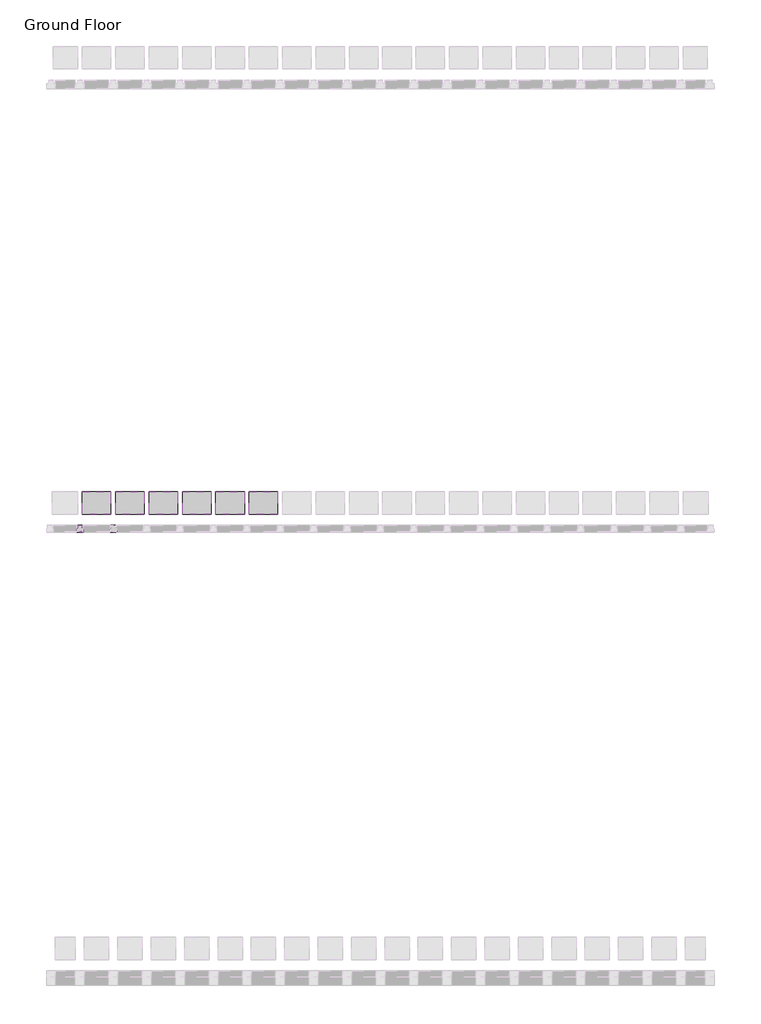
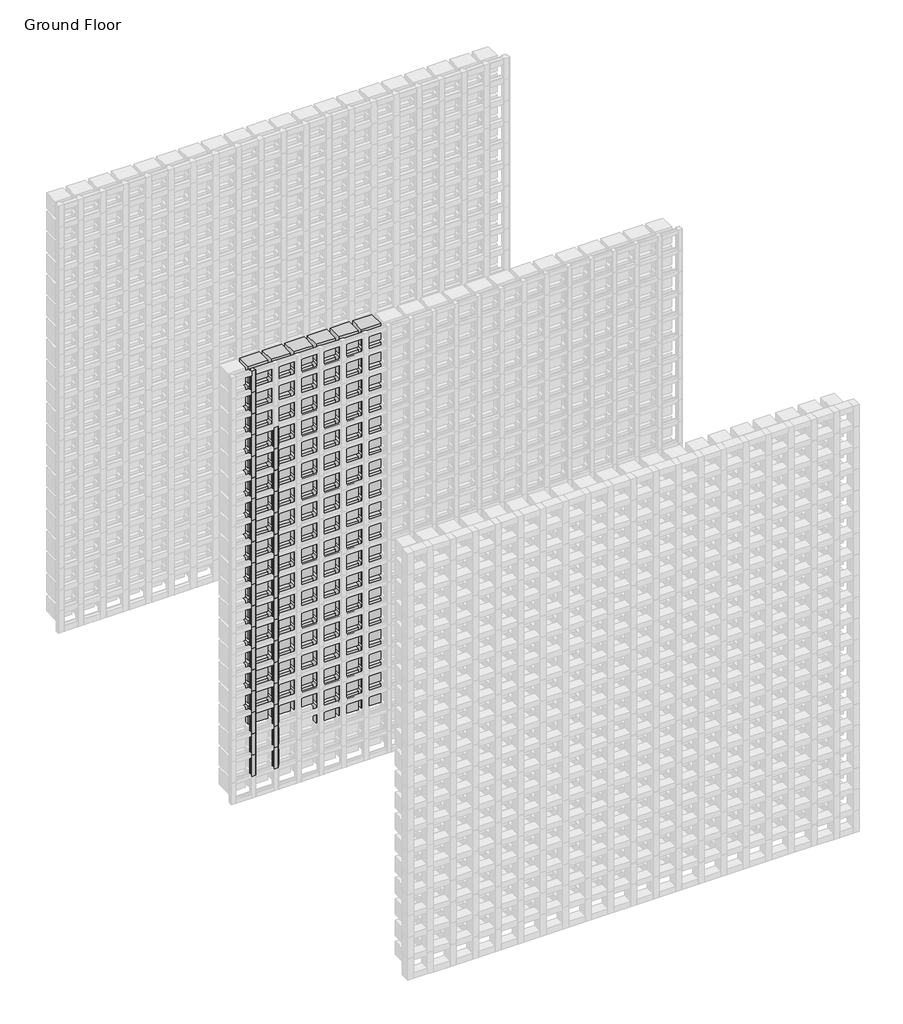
# One storey, part 86 of 350: 105 plates, 35 members.
"""IFC4 building model written with IfcOpenShell, lengths in millimetres."""

from ifc_helpers import new_model, si_unit, origin, place, context, project, spatial, transform, mapped, element, save
from components import rectangular_mullion_f1976eb1, empty_system_panel_empty_5a3607ba, empty_system_panel_empty_babc703c

model = new_model("IFC4")

# Units and contexts
model_context = context("Model", 3, world=origin())
ifc_project = project(units=[si_unit("LENGTHUNIT", "METRE", prefix="MILLI")], contexts=[model_context])

# Site, building, storey
site = spatial("IfcSite", under=ifc_project)
building = spatial("IfcBuilding", under=site)
storey = spatial("IfcBuildingStorey", under=building, Name="Ground Floor", Elevation=0.0)

# Members
placement = place(None, origin())
rectangular_mullion_shape = rectangular_mullion_f1976eb1(model_context)
element("IfcMember", 1, ObjectType="Rectangular Mullion : Batten_Timber_Modinex_Austratus_Grid_Fin_30x30_AlaskanYellowCedar", at=placement, inside=storey, context=model_context, shape_type="MappedRepresentation", body=[
    mapped(rectangular_mullion_shape, transform((2066.4361642, 42968.2978302, 150.0), x_axis=(1.0, 0.0, 0.0), y_axis=(0.0, -1.0, 0.0), z_axis=(0.0, 0.0, -1.0))),
])
element("IfcMember", 2, ObjectType="Rectangular Mullion : Batten_Timber_Modinex_Austratus_Grid_Fin_30x30_AlaskanYellowCedar", at=placement, inside=storey, context=model_context, shape_type="MappedRepresentation", body=[
    mapped(rectangular_mullion_shape, transform((2066.4361642, 42968.2978302, 300.0), x_axis=(1.0, 0.0, 0.0), y_axis=(0.0, -1.0, 0.0), z_axis=(0.0, 0.0, -1.0))),
])
element("IfcMember", 3, ObjectType="Rectangular Mullion : Batten_Timber_Modinex_Austratus_Grid_Fin_30x30_AlaskanYellowCedar", at=placement, inside=storey, context=model_context, shape_type="MappedRepresentation", body=[
    mapped(rectangular_mullion_shape, transform((2066.4361642, 42968.2978302, 450.0), x_axis=(1.0, 0.0, 0.0), y_axis=(0.0, -1.0, 0.0), z_axis=(0.0, 0.0, -1.0))),
])
element("IfcMember", 4, ObjectType="Rectangular Mullion : Batten_Timber_Modinex_Austratus_Grid_Fin_30x30_AlaskanYellowCedar", at=placement, inside=storey, context=model_context, shape_type="MappedRepresentation", body=[
    mapped(rectangular_mullion_shape, transform((2066.4361642, 42968.2978302, 600.0), x_axis=(1.0, 0.0, 0.0), y_axis=(0.0, -1.0, 0.0), z_axis=(0.0, 0.0, -1.0))),
])
element("IfcMember", 5, ObjectType="Rectangular Mullion : Batten_Timber_Modinex_Austratus_Grid_Fin_30x30_AlaskanYellowCedar", at=placement, inside=storey, context=model_context, shape_type="MappedRepresentation", body=[
    mapped(rectangular_mullion_shape, transform((2066.4361642, 42968.2978302, 750.0), x_axis=(1.0, 0.0, 0.0), y_axis=(0.0, -1.0, 0.0), z_axis=(0.0, 0.0, -1.0))),
])
element("IfcMember", 6, ObjectType="Rectangular Mullion : Batten_Timber_Modinex_Austratus_Grid_Fin_30x30_AlaskanYellowCedar", at=placement, inside=storey, context=model_context, shape_type="MappedRepresentation", body=[
    mapped(rectangular_mullion_shape, transform((2066.4361642, 42968.2978302, 900.0), x_axis=(1.0, 0.0, 0.0), y_axis=(0.0, -1.0, 0.0), z_axis=(0.0, 0.0, -1.0))),
])
element("IfcMember", 7, ObjectType="Rectangular Mullion : Batten_Timber_Modinex_Austratus_Grid_Fin_30x30_AlaskanYellowCedar", at=placement, inside=storey, context=model_context, shape_type="MappedRepresentation", body=[
    mapped(rectangular_mullion_shape, transform((2066.4361642, 42968.2978302, 1050.0), x_axis=(1.0, 0.0, 0.0), y_axis=(0.0, -1.0, 0.0), z_axis=(0.0, 0.0, -1.0))),
])
element("IfcMember", 8, ObjectType="Rectangular Mullion : Batten_Timber_Modinex_Austratus_Grid_Fin_30x30_AlaskanYellowCedar", at=placement, inside=storey, context=model_context, shape_type="MappedRepresentation", body=[
    mapped(rectangular_mullion_shape, transform((2066.4361642, 42968.2978302, 1200.0), x_axis=(1.0, 0.0, 0.0), y_axis=(0.0, -1.0, 0.0), z_axis=(0.0, 0.0, -1.0))),
])
element("IfcMember", 9, ObjectType="Rectangular Mullion : Batten_Timber_Modinex_Austratus_Grid_Fin_30x30_AlaskanYellowCedar", at=placement, inside=storey, context=model_context, shape_type="MappedRepresentation", body=[
    mapped(rectangular_mullion_shape, transform((2066.4361642, 42968.2978302, 1350.0), x_axis=(1.0, 0.0, 0.0), y_axis=(0.0, -1.0, 0.0), z_axis=(0.0, 0.0, -1.0))),
])
element("IfcMember", 10, ObjectType="Rectangular Mullion : Batten_Timber_Modinex_Austratus_Grid_Fin_30x30_AlaskanYellowCedar", at=placement, inside=storey, context=model_context, shape_type="MappedRepresentation", body=[
    mapped(rectangular_mullion_shape, transform((2066.4361642, 42968.2978302, 1500.0), x_axis=(1.0, 0.0, 0.0), y_axis=(0.0, -1.0, 0.0), z_axis=(0.0, 0.0, -1.0))),
])
element("IfcMember", 11, ObjectType="Rectangular Mullion : Batten_Timber_Modinex_Austratus_Grid_Fin_30x30_AlaskanYellowCedar", at=placement, inside=storey, context=model_context, shape_type="MappedRepresentation", body=[
    mapped(rectangular_mullion_shape, transform((2066.4361642, 42968.2978302, 1650.0), x_axis=(1.0, 0.0, 0.0), y_axis=(0.0, -1.0, 0.0), z_axis=(0.0, 0.0, -1.0))),
])
element("IfcMember", 12, ObjectType="Rectangular Mullion : Batten_Timber_Modinex_Austratus_Grid_Fin_30x30_AlaskanYellowCedar", at=placement, inside=storey, context=model_context, shape_type="MappedRepresentation", body=[
    mapped(rectangular_mullion_shape, transform((2066.4361642, 42968.2978302, 1800.0), x_axis=(1.0, 0.0, 0.0), y_axis=(0.0, -1.0, 0.0), z_axis=(0.0, 0.0, -1.0))),
])
element("IfcMember", 13, ObjectType="Rectangular Mullion : Batten_Timber_Modinex_Austratus_Grid_Fin_30x30_AlaskanYellowCedar", at=placement, inside=storey, context=model_context, shape_type="MappedRepresentation", body=[
    mapped(rectangular_mullion_shape, transform((2066.4361642, 42968.2978302, 1950.0), x_axis=(1.0, 0.0, 0.0), y_axis=(0.0, -1.0, 0.0), z_axis=(0.0, 0.0, -1.0))),
])
element("IfcMember", 14, ObjectType="Rectangular Mullion : Batten_Timber_Modinex_Austratus_Grid_Fin_30x30_AlaskanYellowCedar", at=placement, inside=storey, context=model_context, shape_type="MappedRepresentation", body=[
    mapped(rectangular_mullion_shape, transform((2066.4361642, 42968.2978302, 2100.0), x_axis=(1.0, 0.0, 0.0), y_axis=(0.0, -1.0, 0.0), z_axis=(0.0, 0.0, -1.0))),
])
element("IfcMember", 15, ObjectType="Rectangular Mullion : Batten_Timber_Modinex_Austratus_Grid_Fin_30x30_AlaskanYellowCedar", at=placement, inside=storey, context=model_context, shape_type="MappedRepresentation", body=[
    mapped(rectangular_mullion_shape, transform((2066.4361642, 42968.2978302, 2250.0), x_axis=(1.0, 0.0, 0.0), y_axis=(0.0, -1.0, 0.0), z_axis=(0.0, 0.0, -1.0))),
])
element("IfcMember", 16, ObjectType="Rectangular Mullion : Batten_Timber_Modinex_Austratus_Grid_Fin_30x30_AlaskanYellowCedar", at=placement, inside=storey, context=model_context, shape_type="MappedRepresentation", body=[
    mapped(rectangular_mullion_shape, transform((2066.4361642, 42968.2978302, 2400.0), x_axis=(1.0, 0.0, 0.0), y_axis=(0.0, -1.0, 0.0), z_axis=(0.0, 0.0, -1.0))),
])
element("IfcMember", 17, ObjectType="Rectangular Mullion : Batten_Timber_Modinex_Austratus_Grid_Fin_30x30_AlaskanYellowCedar", at=placement, inside=storey, context=model_context, shape_type="MappedRepresentation", body=[
    mapped(rectangular_mullion_shape, transform((2066.4361642, 42968.2978302, 2550.0), x_axis=(1.0, 0.0, 0.0), y_axis=(0.0, -1.0, 0.0), z_axis=(0.0, 0.0, -1.0))),
])
element("IfcMember", 18, ObjectType="Rectangular Mullion : Batten_Timber_Modinex_Austratus_Grid_Fin_30x30_AlaskanYellowCedar", at=placement, inside=storey, context=model_context, shape_type="MappedRepresentation", body=[
    mapped(rectangular_mullion_shape, transform((2066.4361642, 42968.2978302, 2700.0), x_axis=(1.0, 0.0, 0.0), y_axis=(0.0, -1.0, 0.0), z_axis=(0.0, 0.0, -1.0))),
])
element("IfcMember", 19, ObjectType="Rectangular Mullion : Batten_Timber_Modinex_Austratus_Grid_Fin_30x30_AlaskanYellowCedar", at=placement, inside=storey, context=model_context, shape_type="MappedRepresentation", body=[
    mapped(rectangular_mullion_shape, transform((2216.4361642, 42968.2978302, 150.0), x_axis=(1.0, 0.0, 0.0), y_axis=(0.0, -1.0, 0.0), z_axis=(0.0, 0.0, -1.0))),
])
element("IfcMember", 20, ObjectType="Rectangular Mullion : Batten_Timber_Modinex_Austratus_Grid_Fin_30x30_AlaskanYellowCedar", at=placement, inside=storey, context=model_context, shape_type="MappedRepresentation", body=[
    mapped(rectangular_mullion_shape, transform((2216.4361642, 42968.2978302, 300.0), x_axis=(1.0, 0.0, 0.0), y_axis=(0.0, -1.0, 0.0), z_axis=(0.0, 0.0, -1.0))),
])
element("IfcMember", 21, ObjectType="Rectangular Mullion : Batten_Timber_Modinex_Austratus_Grid_Fin_30x30_AlaskanYellowCedar", at=placement, inside=storey, context=model_context, shape_type="MappedRepresentation", body=[
    mapped(rectangular_mullion_shape, transform((2216.4361642, 42968.2978302, 450.0), x_axis=(1.0, 0.0, 0.0), y_axis=(0.0, -1.0, 0.0), z_axis=(0.0, 0.0, -1.0))),
])
element("IfcMember", 22, ObjectType="Rectangular Mullion : Batten_Timber_Modinex_Austratus_Grid_Fin_30x30_AlaskanYellowCedar", at=placement, inside=storey, context=model_context, shape_type="MappedRepresentation", body=[
    mapped(rectangular_mullion_shape, transform((2216.4361642, 42968.2978302, 600.0), x_axis=(1.0, 0.0, 0.0), y_axis=(0.0, -1.0, 0.0), z_axis=(0.0, 0.0, -1.0))),
])
element("IfcMember", 23, ObjectType="Rectangular Mullion : Batten_Timber_Modinex_Austratus_Grid_Fin_30x30_AlaskanYellowCedar", at=placement, inside=storey, context=model_context, shape_type="MappedRepresentation", body=[
    mapped(rectangular_mullion_shape, transform((2216.4361642, 42968.2978302, 750.0), x_axis=(1.0, 0.0, 0.0), y_axis=(0.0, -1.0, 0.0), z_axis=(0.0, 0.0, -1.0))),
])
element("IfcMember", 24, ObjectType="Rectangular Mullion : Batten_Timber_Modinex_Austratus_Grid_Fin_30x30_AlaskanYellowCedar", at=placement, inside=storey, context=model_context, shape_type="MappedRepresentation", body=[
    mapped(rectangular_mullion_shape, transform((2216.4361642, 42968.2978302, 900.0), x_axis=(1.0, 0.0, 0.0), y_axis=(0.0, -1.0, 0.0), z_axis=(0.0, 0.0, -1.0))),
])
element("IfcMember", 25, ObjectType="Rectangular Mullion : Batten_Timber_Modinex_Austratus_Grid_Fin_30x30_AlaskanYellowCedar", at=placement, inside=storey, context=model_context, shape_type="MappedRepresentation", body=[
    mapped(rectangular_mullion_shape, transform((2216.4361642, 42968.2978302, 1050.0), x_axis=(1.0, 0.0, 0.0), y_axis=(0.0, -1.0, 0.0), z_axis=(0.0, 0.0, -1.0))),
])
element("IfcMember", 26, ObjectType="Rectangular Mullion : Batten_Timber_Modinex_Austratus_Grid_Fin_30x30_AlaskanYellowCedar", at=placement, inside=storey, context=model_context, shape_type="MappedRepresentation", body=[
    mapped(rectangular_mullion_shape, transform((2216.4361642, 42968.2978302, 1200.0), x_axis=(1.0, 0.0, 0.0), y_axis=(0.0, -1.0, 0.0), z_axis=(0.0, 0.0, -1.0))),
])
element("IfcMember", 27, ObjectType="Rectangular Mullion : Batten_Timber_Modinex_Austratus_Grid_Fin_30x30_AlaskanYellowCedar", at=placement, inside=storey, context=model_context, shape_type="MappedRepresentation", body=[
    mapped(rectangular_mullion_shape, transform((2216.4361642, 42968.2978302, 1350.0), x_axis=(1.0, 0.0, 0.0), y_axis=(0.0, -1.0, 0.0), z_axis=(0.0, 0.0, -1.0))),
])
element("IfcMember", 28, ObjectType="Rectangular Mullion : Batten_Timber_Modinex_Austratus_Grid_Fin_30x30_AlaskanYellowCedar", at=placement, inside=storey, context=model_context, shape_type="MappedRepresentation", body=[
    mapped(rectangular_mullion_shape, transform((2216.4361642, 42968.2978302, 1500.0), x_axis=(1.0, 0.0, 0.0), y_axis=(0.0, -1.0, 0.0), z_axis=(0.0, 0.0, -1.0))),
])
element("IfcMember", 29, ObjectType="Rectangular Mullion : Batten_Timber_Modinex_Austratus_Grid_Fin_30x30_AlaskanYellowCedar", at=placement, inside=storey, context=model_context, shape_type="MappedRepresentation", body=[
    mapped(rectangular_mullion_shape, transform((2216.4361642, 42968.2978302, 1650.0), x_axis=(1.0, 0.0, 0.0), y_axis=(0.0, -1.0, 0.0), z_axis=(0.0, 0.0, -1.0))),
])
element("IfcMember", 30, ObjectType="Rectangular Mullion : Batten_Timber_Modinex_Austratus_Grid_Fin_30x30_AlaskanYellowCedar", at=placement, inside=storey, context=model_context, shape_type="MappedRepresentation", body=[
    mapped(rectangular_mullion_shape, transform((2216.4361642, 42968.2978302, 1800.0), x_axis=(1.0, 0.0, 0.0), y_axis=(0.0, -1.0, 0.0), z_axis=(0.0, 0.0, -1.0))),
])
element("IfcMember", 31, ObjectType="Rectangular Mullion : Batten_Timber_Modinex_Austratus_Grid_Fin_30x30_AlaskanYellowCedar", at=placement, inside=storey, context=model_context, shape_type="MappedRepresentation", body=[
    mapped(rectangular_mullion_shape, transform((2216.4361642, 42968.2978302, 1950.0), x_axis=(1.0, 0.0, 0.0), y_axis=(0.0, -1.0, 0.0), z_axis=(0.0, 0.0, -1.0))),
])
element("IfcMember", 32, ObjectType="Rectangular Mullion : Batten_Timber_Modinex_Austratus_Grid_Fin_30x30_AlaskanYellowCedar", at=placement, inside=storey, context=model_context, shape_type="MappedRepresentation", body=[
    mapped(rectangular_mullion_shape, transform((2216.4361642, 42968.2978302, 2100.0), x_axis=(1.0, 0.0, 0.0), y_axis=(0.0, -1.0, 0.0), z_axis=(0.0, 0.0, -1.0))),
])
element("IfcMember", 33, ObjectType="Rectangular Mullion : Batten_Timber_Modinex_Austratus_Grid_Fin_30x30_AlaskanYellowCedar", at=placement, inside=storey, context=model_context, shape_type="MappedRepresentation", body=[
    mapped(rectangular_mullion_shape, transform((2216.4361642, 42968.2978302, 2250.0), x_axis=(1.0, 0.0, 0.0), y_axis=(0.0, -1.0, 0.0), z_axis=(0.0, 0.0, -1.0))),
])
element("IfcMember", 34, ObjectType="Rectangular Mullion : Batten_Timber_Modinex_Austratus_Grid_Fin_30x30_AlaskanYellowCedar", at=placement, inside=storey, context=model_context, shape_type="MappedRepresentation", body=[
    mapped(rectangular_mullion_shape, transform((2216.4361642, 42968.2978302, 2400.0), x_axis=(1.0, 0.0, 0.0), y_axis=(0.0, -1.0, 0.0), z_axis=(0.0, 0.0, -1.0))),
])
element("IfcMember", 35, ObjectType="Rectangular Mullion : Batten_Timber_Modinex_Austratus_Grid_Fin_30x30_AlaskanYellowCedar", at=placement, inside=storey, context=model_context, shape_type="MappedRepresentation", body=[
    mapped(rectangular_mullion_shape, transform((2066.4361642, 42968.2978302, 2850.0), x_axis=(1.0, 0.0, 0.0), y_axis=(0.0, -1.0, 0.0), z_axis=(0.0, 0.0, -1.0))),
])

# Plates
empty_system_panel_empty_shape = empty_system_panel_empty_5a3607ba(model_context)
element("IfcPlate", 36, ObjectType="Empty System Panel : Empty", at=placement, inside=storey, context=model_context, shape_type="MappedRepresentation", body=[
    mapped(empty_system_panel_empty_shape, transform((2591.4361642, 42968.2978302, 310.812195), x_axis=(1.0, 0.0, 0.0), y_axis=(0.0, 1.0, 0.0), z_axis=(0.0, 0.0, 1.0))),
])
element("IfcPlate", 37, ObjectType="Empty System Panel : Empty", at=placement, inside=storey, context=model_context, shape_type="MappedRepresentation", body=[
    mapped(empty_system_panel_empty_shape, transform((2741.4361642, 42968.2978302, 310.812195), x_axis=(1.0, 0.0, 0.0), y_axis=(0.0, 1.0, 0.0), z_axis=(0.0, 0.0, 1.0))),
])
element("IfcPlate", 38, ObjectType="Empty System Panel : Empty", at=placement, inside=storey, context=model_context, shape_type="MappedRepresentation", body=[
    mapped(empty_system_panel_empty_shape, transform((2891.4361642, 42968.2978302, 310.812195), x_axis=(1.0, 0.0, 0.0), y_axis=(0.0, 1.0, 0.0), z_axis=(0.0, 0.0, 1.0))),
])
element("IfcPlate", 39, ObjectType="Empty System Panel : Empty", at=placement, inside=storey, context=model_context, shape_type="MappedRepresentation", body=[
    mapped(empty_system_panel_empty_shape, transform((2141.4361642, 42968.2978302, 460.812195), x_axis=(1.0, 0.0, 0.0), y_axis=(0.0, 1.0, 0.0), z_axis=(0.0, 0.0, 1.0))),
])
element("IfcPlate", 40, ObjectType="Empty System Panel : Empty", at=placement, inside=storey, context=model_context, shape_type="MappedRepresentation", body=[
    mapped(empty_system_panel_empty_shape, transform((2291.4361642, 42968.2978302, 460.812195), x_axis=(1.0, 0.0, 0.0), y_axis=(0.0, 1.0, 0.0), z_axis=(0.0, 0.0, 1.0))),
])
element("IfcPlate", 41, ObjectType="Empty System Panel : Empty", at=placement, inside=storey, context=model_context, shape_type="MappedRepresentation", body=[
    mapped(empty_system_panel_empty_shape, transform((2441.4361642, 42968.2978302, 460.812195), x_axis=(1.0, 0.0, 0.0), y_axis=(0.0, 1.0, 0.0), z_axis=(0.0, 0.0, 1.0))),
])
element("IfcPlate", 42, ObjectType="Empty System Panel : Empty", at=placement, inside=storey, context=model_context, shape_type="MappedRepresentation", body=[
    mapped(empty_system_panel_empty_shape, transform((2591.4361642, 42968.2978302, 460.812195), x_axis=(1.0, 0.0, 0.0), y_axis=(0.0, 1.0, 0.0), z_axis=(0.0, 0.0, 1.0))),
])
element("IfcPlate", 43, ObjectType="Empty System Panel : Empty", at=placement, inside=storey, context=model_context, shape_type="MappedRepresentation", body=[
    mapped(empty_system_panel_empty_shape, transform((2741.4361642, 42968.2978302, 460.812195), x_axis=(1.0, 0.0, 0.0), y_axis=(0.0, 1.0, 0.0), z_axis=(0.0, 0.0, 1.0))),
])
element("IfcPlate", 44, ObjectType="Empty System Panel : Empty", at=placement, inside=storey, context=model_context, shape_type="MappedRepresentation", body=[
    mapped(empty_system_panel_empty_shape, transform((2891.4361642, 42968.2978302, 460.812195), x_axis=(1.0, 0.0, 0.0), y_axis=(0.0, 1.0, 0.0), z_axis=(0.0, 0.0, 1.0))),
])
element("IfcPlate", 45, ObjectType="Empty System Panel : Empty", at=placement, inside=storey, context=model_context, shape_type="MappedRepresentation", body=[
    mapped(empty_system_panel_empty_shape, transform((2141.4361642, 42968.2978302, 610.812195), x_axis=(1.0, 0.0, 0.0), y_axis=(0.0, 1.0, 0.0), z_axis=(0.0, 0.0, 1.0))),
])
element("IfcPlate", 46, ObjectType="Empty System Panel : Empty", at=placement, inside=storey, context=model_context, shape_type="MappedRepresentation", body=[
    mapped(empty_system_panel_empty_shape, transform((2291.4361642, 42968.2978302, 610.812195), x_axis=(1.0, 0.0, 0.0), y_axis=(0.0, 1.0, 0.0), z_axis=(0.0, 0.0, 1.0))),
])
element("IfcPlate", 47, ObjectType="Empty System Panel : Empty", at=placement, inside=storey, context=model_context, shape_type="MappedRepresentation", body=[
    mapped(empty_system_panel_empty_shape, transform((2441.4361642, 42968.2978302, 610.812195), x_axis=(1.0, 0.0, 0.0), y_axis=(0.0, 1.0, 0.0), z_axis=(0.0, 0.0, 1.0))),
])
element("IfcPlate", 48, ObjectType="Empty System Panel : Empty", at=placement, inside=storey, context=model_context, shape_type="MappedRepresentation", body=[
    mapped(empty_system_panel_empty_shape, transform((2591.4361642, 42968.2978302, 610.812195), x_axis=(1.0, 0.0, 0.0), y_axis=(0.0, 1.0, 0.0), z_axis=(0.0, 0.0, 1.0))),
])
element("IfcPlate", 49, ObjectType="Empty System Panel : Empty", at=placement, inside=storey, context=model_context, shape_type="MappedRepresentation", body=[
    mapped(empty_system_panel_empty_shape, transform((2741.4361642, 42968.2978302, 610.812195), x_axis=(1.0, 0.0, 0.0), y_axis=(0.0, 1.0, 0.0), z_axis=(0.0, 0.0, 1.0))),
])
element("IfcPlate", 50, ObjectType="Empty System Panel : Empty", at=placement, inside=storey, context=model_context, shape_type="MappedRepresentation", body=[
    mapped(empty_system_panel_empty_shape, transform((2891.4361642, 42968.2978302, 610.812195), x_axis=(1.0, 0.0, 0.0), y_axis=(0.0, 1.0, 0.0), z_axis=(0.0, 0.0, 1.0))),
])
element("IfcPlate", 51, ObjectType="Empty System Panel : Empty", at=placement, inside=storey, context=model_context, shape_type="MappedRepresentation", body=[
    mapped(empty_system_panel_empty_shape, transform((2141.4361642, 42968.2978302, 760.812195), x_axis=(1.0, 0.0, 0.0), y_axis=(0.0, 1.0, 0.0), z_axis=(0.0, 0.0, 1.0))),
])
element("IfcPlate", 52, ObjectType="Empty System Panel : Empty", at=placement, inside=storey, context=model_context, shape_type="MappedRepresentation", body=[
    mapped(empty_system_panel_empty_shape, transform((2291.4361642, 42968.2978302, 760.812195), x_axis=(1.0, 0.0, 0.0), y_axis=(0.0, 1.0, 0.0), z_axis=(0.0, 0.0, 1.0))),
])
element("IfcPlate", 53, ObjectType="Empty System Panel : Empty", at=placement, inside=storey, context=model_context, shape_type="MappedRepresentation", body=[
    mapped(empty_system_panel_empty_shape, transform((2441.4361642, 42968.2978302, 760.812195), x_axis=(1.0, 0.0, 0.0), y_axis=(0.0, 1.0, 0.0), z_axis=(0.0, 0.0, 1.0))),
])
element("IfcPlate", 54, ObjectType="Empty System Panel : Empty", at=placement, inside=storey, context=model_context, shape_type="MappedRepresentation", body=[
    mapped(empty_system_panel_empty_shape, transform((2591.4361642, 42968.2978302, 760.812195), x_axis=(1.0, 0.0, 0.0), y_axis=(0.0, 1.0, 0.0), z_axis=(0.0, 0.0, 1.0))),
])
element("IfcPlate", 55, ObjectType="Empty System Panel : Empty", at=placement, inside=storey, context=model_context, shape_type="MappedRepresentation", body=[
    mapped(empty_system_panel_empty_shape, transform((2741.4361642, 42968.2978302, 760.812195), x_axis=(1.0, 0.0, 0.0), y_axis=(0.0, 1.0, 0.0), z_axis=(0.0, 0.0, 1.0))),
])
element("IfcPlate", 56, ObjectType="Empty System Panel : Empty", at=placement, inside=storey, context=model_context, shape_type="MappedRepresentation", body=[
    mapped(empty_system_panel_empty_shape, transform((2891.4361642, 42968.2978302, 760.812195), x_axis=(1.0, 0.0, 0.0), y_axis=(0.0, 1.0, 0.0), z_axis=(0.0, 0.0, 1.0))),
])
element("IfcPlate", 57, ObjectType="Empty System Panel : Empty", at=placement, inside=storey, context=model_context, shape_type="MappedRepresentation", body=[
    mapped(empty_system_panel_empty_shape, transform((2141.4361642, 42968.2978302, 910.812195), x_axis=(1.0, 0.0, 0.0), y_axis=(0.0, 1.0, 0.0), z_axis=(0.0, 0.0, 1.0))),
])
element("IfcPlate", 58, ObjectType="Empty System Panel : Empty", at=placement, inside=storey, context=model_context, shape_type="MappedRepresentation", body=[
    mapped(empty_system_panel_empty_shape, transform((2291.4361642, 42968.2978302, 910.812195), x_axis=(1.0, 0.0, 0.0), y_axis=(0.0, 1.0, 0.0), z_axis=(0.0, 0.0, 1.0))),
])
element("IfcPlate", 59, ObjectType="Empty System Panel : Empty", at=placement, inside=storey, context=model_context, shape_type="MappedRepresentation", body=[
    mapped(empty_system_panel_empty_shape, transform((2441.4361642, 42968.2978302, 910.812195), x_axis=(1.0, 0.0, 0.0), y_axis=(0.0, 1.0, 0.0), z_axis=(0.0, 0.0, 1.0))),
])
element("IfcPlate", 60, ObjectType="Empty System Panel : Empty", at=placement, inside=storey, context=model_context, shape_type="MappedRepresentation", body=[
    mapped(empty_system_panel_empty_shape, transform((2591.4361642, 42968.2978302, 910.812195), x_axis=(1.0, 0.0, 0.0), y_axis=(0.0, 1.0, 0.0), z_axis=(0.0, 0.0, 1.0))),
])
element("IfcPlate", 61, ObjectType="Empty System Panel : Empty", at=placement, inside=storey, context=model_context, shape_type="MappedRepresentation", body=[
    mapped(empty_system_panel_empty_shape, transform((2741.4361642, 42968.2978302, 910.812195), x_axis=(1.0, 0.0, 0.0), y_axis=(0.0, 1.0, 0.0), z_axis=(0.0, 0.0, 1.0))),
])
element("IfcPlate", 62, ObjectType="Empty System Panel : Empty", at=placement, inside=storey, context=model_context, shape_type="MappedRepresentation", body=[
    mapped(empty_system_panel_empty_shape, transform((2891.4361642, 42968.2978302, 910.812195), x_axis=(1.0, 0.0, 0.0), y_axis=(0.0, 1.0, 0.0), z_axis=(0.0, 0.0, 1.0))),
])
element("IfcPlate", 63, ObjectType="Empty System Panel : Empty", at=placement, inside=storey, context=model_context, shape_type="MappedRepresentation", body=[
    mapped(empty_system_panel_empty_shape, transform((2141.4361642, 42968.2978302, 1060.812195), x_axis=(1.0, 0.0, 0.0), y_axis=(0.0, 1.0, 0.0), z_axis=(0.0, 0.0, 1.0))),
])
element("IfcPlate", 64, ObjectType="Empty System Panel : Empty", at=placement, inside=storey, context=model_context, shape_type="MappedRepresentation", body=[
    mapped(empty_system_panel_empty_shape, transform((2291.4361642, 42968.2978302, 1060.812195), x_axis=(1.0, 0.0, 0.0), y_axis=(0.0, 1.0, 0.0), z_axis=(0.0, 0.0, 1.0))),
])
element("IfcPlate", 65, ObjectType="Empty System Panel : Empty", at=placement, inside=storey, context=model_context, shape_type="MappedRepresentation", body=[
    mapped(empty_system_panel_empty_shape, transform((2441.4361642, 42968.2978302, 1060.812195), x_axis=(1.0, 0.0, 0.0), y_axis=(0.0, 1.0, 0.0), z_axis=(0.0, 0.0, 1.0))),
])
element("IfcPlate", 66, ObjectType="Empty System Panel : Empty", at=placement, inside=storey, context=model_context, shape_type="MappedRepresentation", body=[
    mapped(empty_system_panel_empty_shape, transform((2591.4361642, 42968.2978302, 1060.812195), x_axis=(1.0, 0.0, 0.0), y_axis=(0.0, 1.0, 0.0), z_axis=(0.0, 0.0, 1.0))),
])
element("IfcPlate", 67, ObjectType="Empty System Panel : Empty", at=placement, inside=storey, context=model_context, shape_type="MappedRepresentation", body=[
    mapped(empty_system_panel_empty_shape, transform((2741.4361642, 42968.2978302, 1060.812195), x_axis=(1.0, 0.0, 0.0), y_axis=(0.0, 1.0, 0.0), z_axis=(0.0, 0.0, 1.0))),
])
element("IfcPlate", 68, ObjectType="Empty System Panel : Empty", at=placement, inside=storey, context=model_context, shape_type="MappedRepresentation", body=[
    mapped(empty_system_panel_empty_shape, transform((2891.4361642, 42968.2978302, 1060.812195), x_axis=(1.0, 0.0, 0.0), y_axis=(0.0, 1.0, 0.0), z_axis=(0.0, 0.0, 1.0))),
])
element("IfcPlate", 69, ObjectType="Empty System Panel : Empty", at=placement, inside=storey, context=model_context, shape_type="MappedRepresentation", body=[
    mapped(empty_system_panel_empty_shape, transform((2141.4361642, 42968.2978302, 1210.812195), x_axis=(1.0, 0.0, 0.0), y_axis=(0.0, 1.0, 0.0), z_axis=(0.0, 0.0, 1.0))),
])
element("IfcPlate", 70, ObjectType="Empty System Panel : Empty", at=placement, inside=storey, context=model_context, shape_type="MappedRepresentation", body=[
    mapped(empty_system_panel_empty_shape, transform((2291.4361642, 42968.2978302, 1210.812195), x_axis=(1.0, 0.0, 0.0), y_axis=(0.0, 1.0, 0.0), z_axis=(0.0, 0.0, 1.0))),
])
element("IfcPlate", 71, ObjectType="Empty System Panel : Empty", at=placement, inside=storey, context=model_context, shape_type="MappedRepresentation", body=[
    mapped(empty_system_panel_empty_shape, transform((2441.4361642, 42968.2978302, 1210.812195), x_axis=(1.0, 0.0, 0.0), y_axis=(0.0, 1.0, 0.0), z_axis=(0.0, 0.0, 1.0))),
])
element("IfcPlate", 72, ObjectType="Empty System Panel : Empty", at=placement, inside=storey, context=model_context, shape_type="MappedRepresentation", body=[
    mapped(empty_system_panel_empty_shape, transform((2591.4361642, 42968.2978302, 1210.812195), x_axis=(1.0, 0.0, 0.0), y_axis=(0.0, 1.0, 0.0), z_axis=(0.0, 0.0, 1.0))),
])
element("IfcPlate", 73, ObjectType="Empty System Panel : Empty", at=placement, inside=storey, context=model_context, shape_type="MappedRepresentation", body=[
    mapped(empty_system_panel_empty_shape, transform((2741.4361642, 42968.2978302, 1210.812195), x_axis=(1.0, 0.0, 0.0), y_axis=(0.0, 1.0, 0.0), z_axis=(0.0, 0.0, 1.0))),
])
element("IfcPlate", 74, ObjectType="Empty System Panel : Empty", at=placement, inside=storey, context=model_context, shape_type="MappedRepresentation", body=[
    mapped(empty_system_panel_empty_shape, transform((2891.4361642, 42968.2978302, 1210.812195), x_axis=(1.0, 0.0, 0.0), y_axis=(0.0, 1.0, 0.0), z_axis=(0.0, 0.0, 1.0))),
])
element("IfcPlate", 75, ObjectType="Empty System Panel : Empty", at=placement, inside=storey, context=model_context, shape_type="MappedRepresentation", body=[
    mapped(empty_system_panel_empty_shape, transform((2141.4361642, 42968.2978302, 1360.812195), x_axis=(1.0, 0.0, 0.0), y_axis=(0.0, 1.0, 0.0), z_axis=(0.0, 0.0, 1.0))),
])
element("IfcPlate", 76, ObjectType="Empty System Panel : Empty", at=placement, inside=storey, context=model_context, shape_type="MappedRepresentation", body=[
    mapped(empty_system_panel_empty_shape, transform((2291.4361642, 42968.2978302, 1360.812195), x_axis=(1.0, 0.0, 0.0), y_axis=(0.0, 1.0, 0.0), z_axis=(0.0, 0.0, 1.0))),
])
element("IfcPlate", 77, ObjectType="Empty System Panel : Empty", at=placement, inside=storey, context=model_context, shape_type="MappedRepresentation", body=[
    mapped(empty_system_panel_empty_shape, transform((2441.4361642, 42968.2978302, 1360.812195), x_axis=(1.0, 0.0, 0.0), y_axis=(0.0, 1.0, 0.0), z_axis=(0.0, 0.0, 1.0))),
])
element("IfcPlate", 78, ObjectType="Empty System Panel : Empty", at=placement, inside=storey, context=model_context, shape_type="MappedRepresentation", body=[
    mapped(empty_system_panel_empty_shape, transform((2591.4361642, 42968.2978302, 1360.812195), x_axis=(1.0, 0.0, 0.0), y_axis=(0.0, 1.0, 0.0), z_axis=(0.0, 0.0, 1.0))),
])
element("IfcPlate", 79, ObjectType="Empty System Panel : Empty", at=placement, inside=storey, context=model_context, shape_type="MappedRepresentation", body=[
    mapped(empty_system_panel_empty_shape, transform((2741.4361642, 42968.2978302, 1360.812195), x_axis=(1.0, 0.0, 0.0), y_axis=(0.0, 1.0, 0.0), z_axis=(0.0, 0.0, 1.0))),
])
element("IfcPlate", 80, ObjectType="Empty System Panel : Empty", at=placement, inside=storey, context=model_context, shape_type="MappedRepresentation", body=[
    mapped(empty_system_panel_empty_shape, transform((2891.4361642, 42968.2978302, 1360.812195), x_axis=(1.0, 0.0, 0.0), y_axis=(0.0, 1.0, 0.0), z_axis=(0.0, 0.0, 1.0))),
])
element("IfcPlate", 81, ObjectType="Empty System Panel : Empty", at=placement, inside=storey, context=model_context, shape_type="MappedRepresentation", body=[
    mapped(empty_system_panel_empty_shape, transform((2141.4361642, 42968.2978302, 1510.812195), x_axis=(1.0, 0.0, 0.0), y_axis=(0.0, 1.0, 0.0), z_axis=(0.0, 0.0, 1.0))),
])
element("IfcPlate", 82, ObjectType="Empty System Panel : Empty", at=placement, inside=storey, context=model_context, shape_type="MappedRepresentation", body=[
    mapped(empty_system_panel_empty_shape, transform((2291.4361642, 42968.2978302, 1510.812195), x_axis=(1.0, 0.0, 0.0), y_axis=(0.0, 1.0, 0.0), z_axis=(0.0, 0.0, 1.0))),
])
element("IfcPlate", 83, ObjectType="Empty System Panel : Empty", at=placement, inside=storey, context=model_context, shape_type="MappedRepresentation", body=[
    mapped(empty_system_panel_empty_shape, transform((2441.4361642, 42968.2978302, 1510.812195), x_axis=(1.0, 0.0, 0.0), y_axis=(0.0, 1.0, 0.0), z_axis=(0.0, 0.0, 1.0))),
])
element("IfcPlate", 84, ObjectType="Empty System Panel : Empty", at=placement, inside=storey, context=model_context, shape_type="MappedRepresentation", body=[
    mapped(empty_system_panel_empty_shape, transform((2591.4361642, 42968.2978302, 1510.812195), x_axis=(1.0, 0.0, 0.0), y_axis=(0.0, 1.0, 0.0), z_axis=(0.0, 0.0, 1.0))),
])
element("IfcPlate", 85, ObjectType="Empty System Panel : Empty", at=placement, inside=storey, context=model_context, shape_type="MappedRepresentation", body=[
    mapped(empty_system_panel_empty_shape, transform((2741.4361642, 42968.2978302, 1510.812195), x_axis=(1.0, 0.0, 0.0), y_axis=(0.0, 1.0, 0.0), z_axis=(0.0, 0.0, 1.0))),
])
element("IfcPlate", 86, ObjectType="Empty System Panel : Empty", at=placement, inside=storey, context=model_context, shape_type="MappedRepresentation", body=[
    mapped(empty_system_panel_empty_shape, transform((2891.4361642, 42968.2978302, 1510.812195), x_axis=(1.0, 0.0, 0.0), y_axis=(0.0, 1.0, 0.0), z_axis=(0.0, 0.0, 1.0))),
])
element("IfcPlate", 87, ObjectType="Empty System Panel : Empty", at=placement, inside=storey, context=model_context, shape_type="MappedRepresentation", body=[
    mapped(empty_system_panel_empty_shape, transform((2141.4361642, 42968.2978302, 1660.812195), x_axis=(1.0, 0.0, 0.0), y_axis=(0.0, 1.0, 0.0), z_axis=(0.0, 0.0, 1.0))),
])
element("IfcPlate", 88, ObjectType="Empty System Panel : Empty", at=placement, inside=storey, context=model_context, shape_type="MappedRepresentation", body=[
    mapped(empty_system_panel_empty_shape, transform((2291.4361642, 42968.2978302, 1660.812195), x_axis=(1.0, 0.0, 0.0), y_axis=(0.0, 1.0, 0.0), z_axis=(0.0, 0.0, 1.0))),
])
element("IfcPlate", 89, ObjectType="Empty System Panel : Empty", at=placement, inside=storey, context=model_context, shape_type="MappedRepresentation", body=[
    mapped(empty_system_panel_empty_shape, transform((2441.4361642, 42968.2978302, 1660.812195), x_axis=(1.0, 0.0, 0.0), y_axis=(0.0, 1.0, 0.0), z_axis=(0.0, 0.0, 1.0))),
])
element("IfcPlate", 90, ObjectType="Empty System Panel : Empty", at=placement, inside=storey, context=model_context, shape_type="MappedRepresentation", body=[
    mapped(empty_system_panel_empty_shape, transform((2591.4361642, 42968.2978302, 1660.812195), x_axis=(1.0, 0.0, 0.0), y_axis=(0.0, 1.0, 0.0), z_axis=(0.0, 0.0, 1.0))),
])
element("IfcPlate", 91, ObjectType="Empty System Panel : Empty", at=placement, inside=storey, context=model_context, shape_type="MappedRepresentation", body=[
    mapped(empty_system_panel_empty_shape, transform((2741.4361642, 42968.2978302, 1660.812195), x_axis=(1.0, 0.0, 0.0), y_axis=(0.0, 1.0, 0.0), z_axis=(0.0, 0.0, 1.0))),
])
element("IfcPlate", 92, ObjectType="Empty System Panel : Empty", at=placement, inside=storey, context=model_context, shape_type="MappedRepresentation", body=[
    mapped(empty_system_panel_empty_shape, transform((2891.4361642, 42968.2978302, 1660.812195), x_axis=(1.0, 0.0, 0.0), y_axis=(0.0, 1.0, 0.0), z_axis=(0.0, 0.0, 1.0))),
])
element("IfcPlate", 93, ObjectType="Empty System Panel : Empty", at=placement, inside=storey, context=model_context, shape_type="MappedRepresentation", body=[
    mapped(empty_system_panel_empty_shape, transform((2141.4361642, 42968.2978302, 1810.812195), x_axis=(1.0, 0.0, 0.0), y_axis=(0.0, 1.0, 0.0), z_axis=(0.0, 0.0, 1.0))),
])
element("IfcPlate", 94, ObjectType="Empty System Panel : Empty", at=placement, inside=storey, context=model_context, shape_type="MappedRepresentation", body=[
    mapped(empty_system_panel_empty_shape, transform((2291.4361642, 42968.2978302, 1810.812195), x_axis=(1.0, 0.0, 0.0), y_axis=(0.0, 1.0, 0.0), z_axis=(0.0, 0.0, 1.0))),
])
element("IfcPlate", 95, ObjectType="Empty System Panel : Empty", at=placement, inside=storey, context=model_context, shape_type="MappedRepresentation", body=[
    mapped(empty_system_panel_empty_shape, transform((2441.4361642, 42968.2978302, 1810.812195), x_axis=(1.0, 0.0, 0.0), y_axis=(0.0, 1.0, 0.0), z_axis=(0.0, 0.0, 1.0))),
])
element("IfcPlate", 96, ObjectType="Empty System Panel : Empty", at=placement, inside=storey, context=model_context, shape_type="MappedRepresentation", body=[
    mapped(empty_system_panel_empty_shape, transform((2591.4361642, 42968.2978302, 1810.812195), x_axis=(1.0, 0.0, 0.0), y_axis=(0.0, 1.0, 0.0), z_axis=(0.0, 0.0, 1.0))),
])
element("IfcPlate", 97, ObjectType="Empty System Panel : Empty", at=placement, inside=storey, context=model_context, shape_type="MappedRepresentation", body=[
    mapped(empty_system_panel_empty_shape, transform((2741.4361642, 42968.2978302, 1810.812195), x_axis=(1.0, 0.0, 0.0), y_axis=(0.0, 1.0, 0.0), z_axis=(0.0, 0.0, 1.0))),
])
element("IfcPlate", 98, ObjectType="Empty System Panel : Empty", at=placement, inside=storey, context=model_context, shape_type="MappedRepresentation", body=[
    mapped(empty_system_panel_empty_shape, transform((2891.4361642, 42968.2978302, 1810.812195), x_axis=(1.0, 0.0, 0.0), y_axis=(0.0, 1.0, 0.0), z_axis=(0.0, 0.0, 1.0))),
])
element("IfcPlate", 99, ObjectType="Empty System Panel : Empty", at=placement, inside=storey, context=model_context, shape_type="MappedRepresentation", body=[
    mapped(empty_system_panel_empty_shape, transform((2141.4361642, 42968.2978302, 1960.812195), x_axis=(1.0, 0.0, 0.0), y_axis=(0.0, 1.0, 0.0), z_axis=(0.0, 0.0, 1.0))),
])
element("IfcPlate", 100, ObjectType="Empty System Panel : Empty", at=placement, inside=storey, context=model_context, shape_type="MappedRepresentation", body=[
    mapped(empty_system_panel_empty_shape, transform((2291.4361642, 42968.2978302, 1960.812195), x_axis=(1.0, 0.0, 0.0), y_axis=(0.0, 1.0, 0.0), z_axis=(0.0, 0.0, 1.0))),
])
element("IfcPlate", 101, ObjectType="Empty System Panel : Empty", at=placement, inside=storey, context=model_context, shape_type="MappedRepresentation", body=[
    mapped(empty_system_panel_empty_shape, transform((2441.4361642, 42968.2978302, 1960.812195), x_axis=(1.0, 0.0, 0.0), y_axis=(0.0, 1.0, 0.0), z_axis=(0.0, 0.0, 1.0))),
])
element("IfcPlate", 102, ObjectType="Empty System Panel : Empty", at=placement, inside=storey, context=model_context, shape_type="MappedRepresentation", body=[
    mapped(empty_system_panel_empty_shape, transform((2591.4361642, 42968.2978302, 1960.812195), x_axis=(1.0, 0.0, 0.0), y_axis=(0.0, 1.0, 0.0), z_axis=(0.0, 0.0, 1.0))),
])
element("IfcPlate", 103, ObjectType="Empty System Panel : Empty", at=placement, inside=storey, context=model_context, shape_type="MappedRepresentation", body=[
    mapped(empty_system_panel_empty_shape, transform((2741.4361642, 42968.2978302, 1960.812195), x_axis=(1.0, 0.0, 0.0), y_axis=(0.0, 1.0, 0.0), z_axis=(0.0, 0.0, 1.0))),
])
element("IfcPlate", 104, ObjectType="Empty System Panel : Empty", at=placement, inside=storey, context=model_context, shape_type="MappedRepresentation", body=[
    mapped(empty_system_panel_empty_shape, transform((2891.4361642, 42968.2978302, 1960.812195), x_axis=(1.0, 0.0, 0.0), y_axis=(0.0, 1.0, 0.0), z_axis=(0.0, 0.0, 1.0))),
])
element("IfcPlate", 105, ObjectType="Empty System Panel : Empty", at=placement, inside=storey, context=model_context, shape_type="MappedRepresentation", body=[
    mapped(empty_system_panel_empty_shape, transform((2141.4361642, 42968.2978302, 2110.812195), x_axis=(1.0, 0.0, 0.0), y_axis=(0.0, 1.0, 0.0), z_axis=(0.0, 0.0, 1.0))),
])
element("IfcPlate", 106, ObjectType="Empty System Panel : Empty", at=placement, inside=storey, context=model_context, shape_type="MappedRepresentation", body=[
    mapped(empty_system_panel_empty_shape, transform((2291.4361642, 42968.2978302, 2110.812195), x_axis=(1.0, 0.0, 0.0), y_axis=(0.0, 1.0, 0.0), z_axis=(0.0, 0.0, 1.0))),
])
element("IfcPlate", 107, ObjectType="Empty System Panel : Empty", at=placement, inside=storey, context=model_context, shape_type="MappedRepresentation", body=[
    mapped(empty_system_panel_empty_shape, transform((2441.4361642, 42968.2978302, 2110.812195), x_axis=(1.0, 0.0, 0.0), y_axis=(0.0, 1.0, 0.0), z_axis=(0.0, 0.0, 1.0))),
])
element("IfcPlate", 108, ObjectType="Empty System Panel : Empty", at=placement, inside=storey, context=model_context, shape_type="MappedRepresentation", body=[
    mapped(empty_system_panel_empty_shape, transform((2591.4361642, 42968.2978302, 2110.812195), x_axis=(1.0, 0.0, 0.0), y_axis=(0.0, 1.0, 0.0), z_axis=(0.0, 0.0, 1.0))),
])
element("IfcPlate", 109, ObjectType="Empty System Panel : Empty", at=placement, inside=storey, context=model_context, shape_type="MappedRepresentation", body=[
    mapped(empty_system_panel_empty_shape, transform((2741.4361642, 42968.2978302, 2110.812195), x_axis=(1.0, 0.0, 0.0), y_axis=(0.0, 1.0, 0.0), z_axis=(0.0, 0.0, 1.0))),
])
element("IfcPlate", 110, ObjectType="Empty System Panel : Empty", at=placement, inside=storey, context=model_context, shape_type="MappedRepresentation", body=[
    mapped(empty_system_panel_empty_shape, transform((2891.4361642, 42968.2978302, 2110.812195), x_axis=(1.0, 0.0, 0.0), y_axis=(0.0, 1.0, 0.0), z_axis=(0.0, 0.0, 1.0))),
])
element("IfcPlate", 111, ObjectType="Empty System Panel : Empty", at=placement, inside=storey, context=model_context, shape_type="MappedRepresentation", body=[
    mapped(empty_system_panel_empty_shape, transform((2141.4361642, 42968.2978302, 2260.812195), x_axis=(1.0, 0.0, 0.0), y_axis=(0.0, 1.0, 0.0), z_axis=(0.0, 0.0, 1.0))),
])
element("IfcPlate", 112, ObjectType="Empty System Panel : Empty", at=placement, inside=storey, context=model_context, shape_type="MappedRepresentation", body=[
    mapped(empty_system_panel_empty_shape, transform((2291.4361642, 42968.2978302, 2260.812195), x_axis=(1.0, 0.0, 0.0), y_axis=(0.0, 1.0, 0.0), z_axis=(0.0, 0.0, 1.0))),
])
element("IfcPlate", 113, ObjectType="Empty System Panel : Empty", at=placement, inside=storey, context=model_context, shape_type="MappedRepresentation", body=[
    mapped(empty_system_panel_empty_shape, transform((2441.4361642, 42968.2978302, 2260.812195), x_axis=(1.0, 0.0, 0.0), y_axis=(0.0, 1.0, 0.0), z_axis=(0.0, 0.0, 1.0))),
])
element("IfcPlate", 114, ObjectType="Empty System Panel : Empty", at=placement, inside=storey, context=model_context, shape_type="MappedRepresentation", body=[
    mapped(empty_system_panel_empty_shape, transform((2591.4361642, 42968.2978302, 2260.812195), x_axis=(1.0, 0.0, 0.0), y_axis=(0.0, 1.0, 0.0), z_axis=(0.0, 0.0, 1.0))),
])
element("IfcPlate", 115, ObjectType="Empty System Panel : Empty", at=placement, inside=storey, context=model_context, shape_type="MappedRepresentation", body=[
    mapped(empty_system_panel_empty_shape, transform((2741.4361642, 42968.2978302, 2260.812195), x_axis=(1.0, 0.0, 0.0), y_axis=(0.0, 1.0, 0.0), z_axis=(0.0, 0.0, 1.0))),
])
element("IfcPlate", 116, ObjectType="Empty System Panel : Empty", at=placement, inside=storey, context=model_context, shape_type="MappedRepresentation", body=[
    mapped(empty_system_panel_empty_shape, transform((2891.4361642, 42968.2978302, 2260.812195), x_axis=(1.0, 0.0, 0.0), y_axis=(0.0, 1.0, 0.0), z_axis=(0.0, 0.0, 1.0))),
])
element("IfcPlate", 117, ObjectType="Empty System Panel : Empty", at=placement, inside=storey, context=model_context, shape_type="MappedRepresentation", body=[
    mapped(empty_system_panel_empty_shape, transform((2141.4361642, 42968.2978302, 2410.812195), x_axis=(1.0, 0.0, 0.0), y_axis=(0.0, 1.0, 0.0), z_axis=(0.0, 0.0, 1.0))),
])
element("IfcPlate", 118, ObjectType="Empty System Panel : Empty", at=placement, inside=storey, context=model_context, shape_type="MappedRepresentation", body=[
    mapped(empty_system_panel_empty_shape, transform((2291.4361642, 42968.2978302, 2410.812195), x_axis=(1.0, 0.0, 0.0), y_axis=(0.0, 1.0, 0.0), z_axis=(0.0, 0.0, 1.0))),
])
element("IfcPlate", 119, ObjectType="Empty System Panel : Empty", at=placement, inside=storey, context=model_context, shape_type="MappedRepresentation", body=[
    mapped(empty_system_panel_empty_shape, transform((2441.4361642, 42968.2978302, 2410.812195), x_axis=(1.0, 0.0, 0.0), y_axis=(0.0, 1.0, 0.0), z_axis=(0.0, 0.0, 1.0))),
])
element("IfcPlate", 120, ObjectType="Empty System Panel : Empty", at=placement, inside=storey, context=model_context, shape_type="MappedRepresentation", body=[
    mapped(empty_system_panel_empty_shape, transform((2591.4361642, 42968.2978302, 2410.812195), x_axis=(1.0, 0.0, 0.0), y_axis=(0.0, 1.0, 0.0), z_axis=(0.0, 0.0, 1.0))),
])
element("IfcPlate", 121, ObjectType="Empty System Panel : Empty", at=placement, inside=storey, context=model_context, shape_type="MappedRepresentation", body=[
    mapped(empty_system_panel_empty_shape, transform((2741.4361642, 42968.2978302, 2410.812195), x_axis=(1.0, 0.0, 0.0), y_axis=(0.0, 1.0, 0.0), z_axis=(0.0, 0.0, 1.0))),
])
element("IfcPlate", 122, ObjectType="Empty System Panel : Empty", at=placement, inside=storey, context=model_context, shape_type="MappedRepresentation", body=[
    mapped(empty_system_panel_empty_shape, transform((2891.4361642, 42968.2978302, 2410.812195), x_axis=(1.0, 0.0, 0.0), y_axis=(0.0, 1.0, 0.0), z_axis=(0.0, 0.0, 1.0))),
])
element("IfcPlate", 123, ObjectType="Empty System Panel : Empty", at=placement, inside=storey, context=model_context, shape_type="MappedRepresentation", body=[
    mapped(empty_system_panel_empty_shape, transform((2141.4361642, 42968.2978302, 2560.812195), x_axis=(1.0, 0.0, 0.0), y_axis=(0.0, 1.0, 0.0), z_axis=(0.0, 0.0, 1.0))),
])
element("IfcPlate", 124, ObjectType="Empty System Panel : Empty", at=placement, inside=storey, context=model_context, shape_type="MappedRepresentation", body=[
    mapped(empty_system_panel_empty_shape, transform((2291.4361642, 42968.2978302, 2560.812195), x_axis=(1.0, 0.0, 0.0), y_axis=(0.0, 1.0, 0.0), z_axis=(0.0, 0.0, 1.0))),
])
element("IfcPlate", 125, ObjectType="Empty System Panel : Empty", at=placement, inside=storey, context=model_context, shape_type="MappedRepresentation", body=[
    mapped(empty_system_panel_empty_shape, transform((2441.4361642, 42968.2978302, 2560.812195), x_axis=(1.0, 0.0, 0.0), y_axis=(0.0, 1.0, 0.0), z_axis=(0.0, 0.0, 1.0))),
])
element("IfcPlate", 126, ObjectType="Empty System Panel : Empty", at=placement, inside=storey, context=model_context, shape_type="MappedRepresentation", body=[
    mapped(empty_system_panel_empty_shape, transform((2591.4361642, 42968.2978302, 2560.812195), x_axis=(1.0, 0.0, 0.0), y_axis=(0.0, 1.0, 0.0), z_axis=(0.0, 0.0, 1.0))),
])
element("IfcPlate", 127, ObjectType="Empty System Panel : Empty", at=placement, inside=storey, context=model_context, shape_type="MappedRepresentation", body=[
    mapped(empty_system_panel_empty_shape, transform((2741.4361642, 42968.2978302, 2560.812195), x_axis=(1.0, 0.0, 0.0), y_axis=(0.0, 1.0, 0.0), z_axis=(0.0, 0.0, 1.0))),
])
element("IfcPlate", 128, ObjectType="Empty System Panel : Empty", at=placement, inside=storey, context=model_context, shape_type="MappedRepresentation", body=[
    mapped(empty_system_panel_empty_shape, transform((2891.4361642, 42968.2978302, 2560.812195), x_axis=(1.0, 0.0, 0.0), y_axis=(0.0, 1.0, 0.0), z_axis=(0.0, 0.0, 1.0))),
])
element("IfcPlate", 129, ObjectType="Empty System Panel : Empty", at=placement, inside=storey, context=model_context, shape_type="MappedRepresentation", body=[
    mapped(empty_system_panel_empty_shape, transform((2141.4361642, 42968.2978302, 2710.812195), x_axis=(1.0, 0.0, 0.0), y_axis=(0.0, 1.0, 0.0), z_axis=(0.0, 0.0, 1.0))),
])
element("IfcPlate", 130, ObjectType="Empty System Panel : Empty", at=placement, inside=storey, context=model_context, shape_type="MappedRepresentation", body=[
    mapped(empty_system_panel_empty_shape, transform((2291.4361642, 42968.2978302, 2710.812195), x_axis=(1.0, 0.0, 0.0), y_axis=(0.0, 1.0, 0.0), z_axis=(0.0, 0.0, 1.0))),
])
element("IfcPlate", 131, ObjectType="Empty System Panel : Empty", at=placement, inside=storey, context=model_context, shape_type="MappedRepresentation", body=[
    mapped(empty_system_panel_empty_shape, transform((2441.4361642, 42968.2978302, 2710.812195), x_axis=(1.0, 0.0, 0.0), y_axis=(0.0, 1.0, 0.0), z_axis=(0.0, 0.0, 1.0))),
])
element("IfcPlate", 132, ObjectType="Empty System Panel : Empty", at=placement, inside=storey, context=model_context, shape_type="MappedRepresentation", body=[
    mapped(empty_system_panel_empty_shape, transform((2591.4361642, 42968.2978302, 2710.812195), x_axis=(1.0, 0.0, 0.0), y_axis=(0.0, 1.0, 0.0), z_axis=(0.0, 0.0, 1.0))),
])
element("IfcPlate", 133, ObjectType="Empty System Panel : Empty", at=placement, inside=storey, context=model_context, shape_type="MappedRepresentation", body=[
    mapped(empty_system_panel_empty_shape, transform((2741.4361642, 42968.2978302, 2710.812195), x_axis=(1.0, 0.0, 0.0), y_axis=(0.0, 1.0, 0.0), z_axis=(0.0, 0.0, 1.0))),
])
element("IfcPlate", 134, ObjectType="Empty System Panel : Empty", at=placement, inside=storey, context=model_context, shape_type="MappedRepresentation", body=[
    mapped(empty_system_panel_empty_shape, transform((2891.4361642, 42968.2978302, 2710.812195), x_axis=(1.0, 0.0, 0.0), y_axis=(0.0, 1.0, 0.0), z_axis=(0.0, 0.0, 1.0))),
])
empty_system_panel_empty_2_shape = empty_system_panel_empty_babc703c(model_context)
element("IfcPlate", 135, ObjectType="Empty System Panel : Empty", at=placement, inside=storey, context=model_context, shape_type="MappedRepresentation", body=[
    mapped(empty_system_panel_empty_2_shape, transform((2141.4361642, 42968.2978302, 2860.812195), x_axis=(1.0, 0.0, 0.0), y_axis=(0.0, 1.0, 0.0), z_axis=(0.0, 0.0, 1.0))),
])
element("IfcPlate", 136, ObjectType="Empty System Panel : Empty", at=placement, inside=storey, context=model_context, shape_type="MappedRepresentation", body=[
    mapped(empty_system_panel_empty_2_shape, transform((2291.4361642, 42968.2978302, 2860.812195), x_axis=(1.0, 0.0, 0.0), y_axis=(0.0, 1.0, 0.0), z_axis=(0.0, 0.0, 1.0))),
])
element("IfcPlate", 137, ObjectType="Empty System Panel : Empty", at=placement, inside=storey, context=model_context, shape_type="MappedRepresentation", body=[
    mapped(empty_system_panel_empty_2_shape, transform((2441.4361642, 42968.2978302, 2860.812195), x_axis=(1.0, 0.0, 0.0), y_axis=(0.0, 1.0, 0.0), z_axis=(0.0, 0.0, 1.0))),
])
element("IfcPlate", 138, ObjectType="Empty System Panel : Empty", at=placement, inside=storey, context=model_context, shape_type="MappedRepresentation", body=[
    mapped(empty_system_panel_empty_2_shape, transform((2591.4361642, 42968.2978302, 2860.812195), x_axis=(1.0, 0.0, 0.0), y_axis=(0.0, 1.0, 0.0), z_axis=(0.0, 0.0, 1.0))),
])
element("IfcPlate", 139, ObjectType="Empty System Panel : Empty", at=placement, inside=storey, context=model_context, shape_type="MappedRepresentation", body=[
    mapped(empty_system_panel_empty_2_shape, transform((2741.4361642, 42968.2978302, 2860.812195), x_axis=(1.0, 0.0, 0.0), y_axis=(0.0, 1.0, 0.0), z_axis=(0.0, 0.0, 1.0))),
])
element("IfcPlate", 140, ObjectType="Empty System Panel : Empty", at=placement, inside=storey, context=model_context, shape_type="MappedRepresentation", body=[
    mapped(empty_system_panel_empty_2_shape, transform((2891.4361642, 42968.2978302, 2860.812195), x_axis=(1.0, 0.0, 0.0), y_axis=(0.0, 1.0, 0.0), z_axis=(0.0, 0.0, 1.0))),
])

save(model, "model.ifc")
